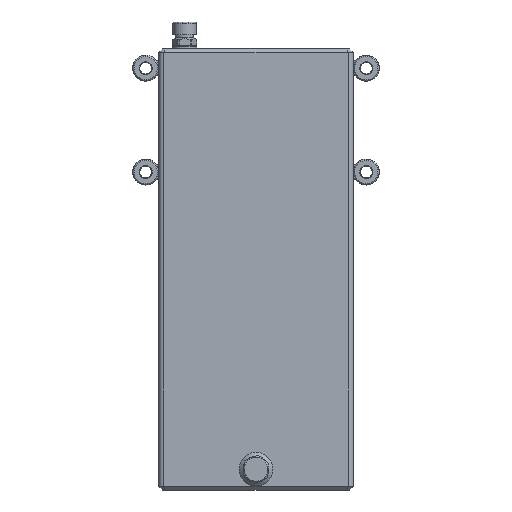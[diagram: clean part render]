
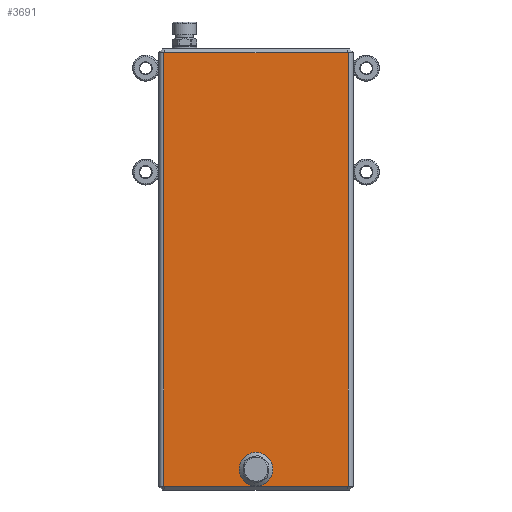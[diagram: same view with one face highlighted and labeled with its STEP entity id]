
A CAD part, front view. The second image highlights one B-rep face of the part: STEP entity #3691.
In plain terms, the highlighted planar face has unit normal (0, -1, 0).
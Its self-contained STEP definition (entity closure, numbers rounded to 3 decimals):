
#111=LINE('',#7881,#330);
#114=LINE('',#7889,#333);
#115=LINE('',#7893,#334);
#118=LINE('',#7903,#337);
#119=LINE('',#7908,#338);
#120=LINE('',#7909,#339);
#122=LINE('',#7942,#341);
#131=LINE('',#7966,#350);
#132=LINE('',#7968,#351);
#330=VECTOR('',#6705,1000.);
#333=VECTOR('',#6712,1000.);
#334=VECTOR('',#6717,1000.);
#337=VECTOR('',#6726,1000.);
#338=VECTOR('',#6733,1000.);
#339=VECTOR('',#6734,1000.);
#341=VECTOR('',#6776,1000.);
#350=VECTOR('',#6803,1000.);
#351=VECTOR('',#6806,1000.);
#1099=ORIENTED_EDGE('',*,*,#1786,.T.);
#1100=ORIENTED_EDGE('',*,*,#1784,.T.);
#1101=ORIENTED_EDGE('',*,*,#1785,.T.);
#1102=ORIENTED_EDGE('',*,*,#1783,.T.);
#1103=ORIENTED_EDGE('',*,*,#1778,.T.);
#1104=ORIENTED_EDGE('',*,*,#1810,.T.);
#1105=ORIENTED_EDGE('',*,*,#1811,.T.);
#1106=ORIENTED_EDGE('',*,*,#1798,.T.);
#1107=ORIENTED_EDGE('',*,*,#1776,.T.);
#1108=ORIENTED_EDGE('',*,*,#1772,.T.);
#1772=EDGE_CURVE('',#2189,#2162,#111,.T.);
#1776=EDGE_CURVE('',#2192,#2189,#114,.T.);
#1778=EDGE_CURVE('',#2193,#2194,#115,.T.);
#1783=EDGE_CURVE('',#2157,#2193,#118,.T.);
#1784=EDGE_CURVE('',#2197,#2197,#2489,.F.);
#1785=EDGE_CURVE('',#2197,#2157,#119,.T.);
#1786=EDGE_CURVE('',#2162,#2197,#120,.T.);
#1798=EDGE_CURVE('',#2208,#2192,#122,.T.);
#1810=EDGE_CURVE('',#2194,#2214,#131,.T.);
#1811=EDGE_CURVE('',#2214,#2208,#132,.T.);
#2157=VERTEX_POINT('',#7751);
#2162=VERTEX_POINT('',#7767);
#2189=VERTEX_POINT('',#7882);
#2192=VERTEX_POINT('',#7890);
#2193=VERTEX_POINT('',#7894);
#2194=VERTEX_POINT('',#7895);
#2197=VERTEX_POINT('',#7906);
#2208=VERTEX_POINT('',#7940);
#2214=VERTEX_POINT('',#7965);
#2489=CIRCLE('',#5861,13.);
#2847=EDGE_LOOP('',(#1099,#1100,#1101,#1102,#1103,#1104,#1105,#1106,#1107,
#1108));
#3249=FACE_BOUND('',#2847,.T.);
#3492=PLANE('',#5892);
#3691=ADVANCED_FACE('',(#3249),#3492,.T.);
#5861=AXIS2_PLACEMENT_3D('',#7905,#6729,#6730);
#5892=AXIS2_PLACEMENT_3D('',#7967,#6804,#6805);
#6705=DIRECTION('',(1.,0.,0.));
#6712=DIRECTION('',(0.,0.,-1.));
#6717=DIRECTION('',(0.,0.,1.));
#6726=DIRECTION('',(1.,0.,0.));
#6729=DIRECTION('',(0.,-1.,0.));
#6730=DIRECTION('',(1.,0.,0.));
#6733=DIRECTION('',(1.,0.,0.));
#6734=DIRECTION('',(1.,0.,0.));
#6776=DIRECTION('',(-1.,0.,0.));
#6803=DIRECTION('',(-1.,0.,0.));
#6804=DIRECTION('',(0.,-1.,0.));
#6805=DIRECTION('',(1.,0.,0.));
#6806=DIRECTION('',(-1.,0.,0.));
#7751=CARTESIAN_POINT('',(70.5,-75.,3.));
#7767=CARTESIAN_POINT('',(-70.5,-75.,3.));
#7881=CARTESIAN_POINT('',(-72.563,-75.,3.));
#7882=CARTESIAN_POINT('',(-71.,-75.,3.));
#7889=CARTESIAN_POINT('',(-71.,-75.,337.));
#7890=CARTESIAN_POINT('',(-71.,-75.,337.));
#7893=CARTESIAN_POINT('',(71.,-75.,3.));
#7894=CARTESIAN_POINT('',(71.,-75.,3.));
#7895=CARTESIAN_POINT('',(71.,-75.,337.));
#7903=CARTESIAN_POINT('',(-72.563,-75.,3.));
#7905=CARTESIAN_POINT('',(0.,-75.,16.));
#7906=CARTESIAN_POINT('',(0.,-75.,3.));
#7908=CARTESIAN_POINT('',(-72.563,-75.,3.));
#7909=CARTESIAN_POINT('',(-72.563,-75.,3.));
#7940=CARTESIAN_POINT('',(-70.5,-75.,337.));
#7942=CARTESIAN_POINT('',(-72.563,-75.,337.));
#7965=CARTESIAN_POINT('',(70.5,-75.,337.));
#7966=CARTESIAN_POINT('',(-72.563,-75.,337.));
#7967=CARTESIAN_POINT('',(-72.,-75.,170.));
#7968=CARTESIAN_POINT('',(-72.563,-75.,337.));
